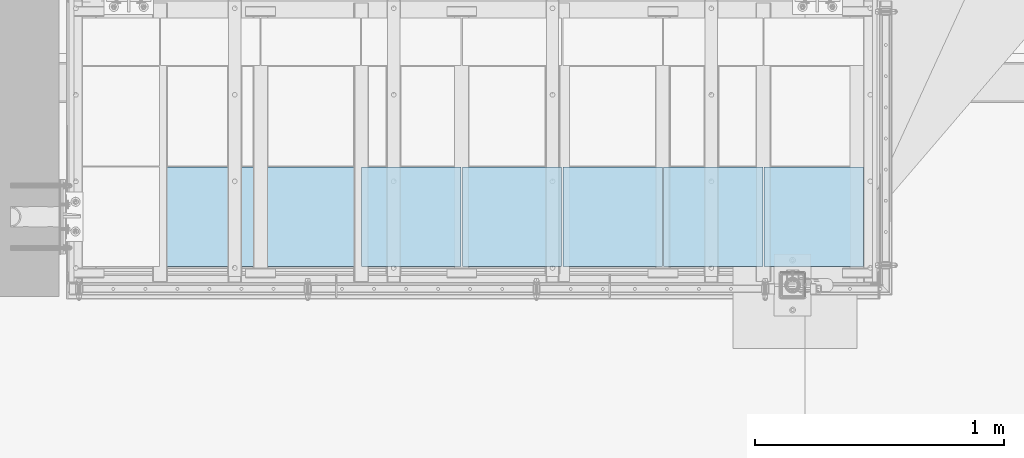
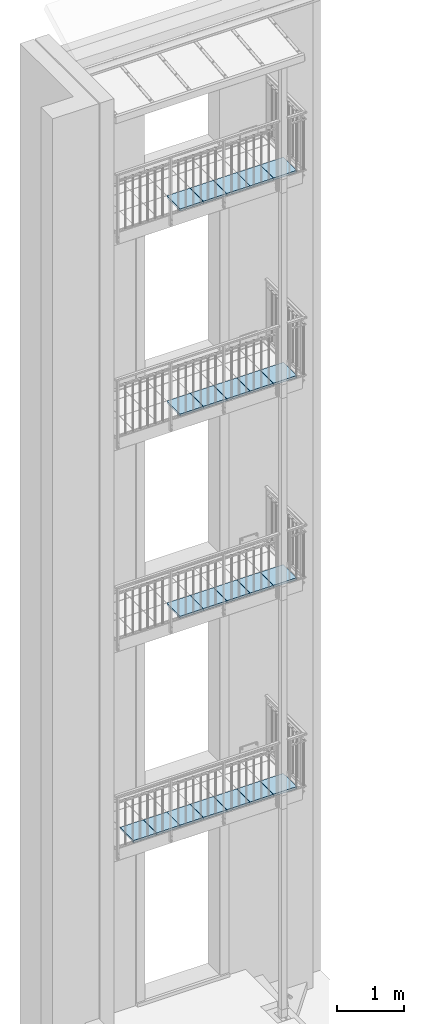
# One storey, part 58 of 162: 22 plates.
"""IFC2X3 building model written with IfcOpenShell, lengths in millimetres."""

from ifc_helpers import new_model, entity, si_unit, converted_unit, frame, origin_with_axes, place, context, project, spatial, polyline, outline, extrude, material, layer, layer_set, element, save


model = new_model("IFC2X3")

# Units and contexts
model_context = context("Model", 3, precision=1e-09, world=origin_with_axes())
ifc_project = project(units=[si_unit("LENGTHUNIT", "METRE", prefix="MILLI"), si_unit("AREAUNIT", "SQUARE_METRE"), si_unit("VOLUMEUNIT", "CUBIC_METRE"), converted_unit("PLANEANGLEUNIT", "DEGREE", entity("IfcPlaneAngleMeasure", 0.01745329), si_unit("PLANEANGLEUNIT", "RADIAN"), dimensions=[0, 0, 0, 0, 0, 0, 0])], contexts=[model_context])

# Site, building, storey
site_placement = place(None, origin_with_axes())
site = spatial("IfcSite", under=ifc_project, at=site_placement, Name="Hermannstra?e 1a, 60318 Frankfurt", CompositionType="ELEMENT")
building_placement = place(site_placement, origin_with_axes())
building = spatial("IfcBuilding", under=site, at=building_placement, Name="Struktur 1", CompositionType="ELEMENT")
storey_placement = place(building_placement, origin_with_axes())
storey = spatial("IfcBuildingStorey", under=building, at=storey_placement, Name="Default Storey", CompositionType="ELEMENT", Elevation=0.0)

# Plates
ifc_material = material(Name="BWS")
ifc_layer = layer(ifc_material, 40.0)
ifc_layer_set = layer_set([ifc_layer], Name="BWS")
for number, where, z_axis, x_axis in (
    (1, (3740.30936482, 2005.609373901, 7774.0), (0.0, 0.0, -1.0), (1.0, 0.0, 0.0)),
    (2, (4953.80936482, 2005.609373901, 7774.0), (0.0, 0.0, -1.0), (1.0, 0.0, 0.0)),
    (3, (5358.30936482, 2005.609373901, 7774.0), (0.0, 0.0, -1.0), (1.0, 0.0, 0.0)),
    (4, (4549.30936482, 2005.609373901, 7774.0), (0.0, 0.0, -1.0), (1.0, 0.0, 0.0)),
    (5, (4144.80936482, 2005.609373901, 7774.0), (0.0, 0.0, -1.0), (1.0, 0.0, 0.0)),
    (6, (4953.80936482, 2005.609373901, 11473.999), (0.0, 0.0, -1.0), (1.0, 0.0, 0.0)),
    (7, (5358.30936482, 2005.609373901, 11473.999), (0.0, 0.0, -1.0), (1.0, 0.0, 0.0)),
    (8, (4549.30936482, 2005.609373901, 11473.999), (0.0, 0.0, -1.0), (1.0, 0.0, 0.0)),
    (9, (4144.80936482, 2005.609373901, 11473.999), (0.0, 0.0, -1.0), (1.0, 0.0, 0.0)),
    (10, (3740.30936482, 2005.609373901, 11473.999), (0.0, 0.0, -1.0), (1.0, 0.0, 0.0)),
    (11, (4953.80936482, 2005.609373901, 15230.999), (0.0, 0.0, -1.0), (1.0, 0.0, 0.0)),
    (12, (5358.30936482, 2005.609373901, 15230.999), (0.0, 0.0, -1.0), (1.0, 0.0, 0.0)),
    (13, (4549.30936482, 2005.609373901, 15230.999), (0.0, 0.0, -1.0), (1.0, 0.0, 0.0)),
    (14, (4144.80936482, 2005.609373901, 15230.999), (0.0, 0.0, -1.0), (1.0, 0.0, 0.0)),
    (15, (3740.30936482, 2005.609373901, 15230.999), (0.0, 0.0, -1.0), (1.0, 0.0, 0.0)),
    (16, (4953.80936482, 2005.609373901, 3949.0), (0.0, 0.0, -1.0), (1.0, 0.0, 0.0)),
    (17, (5358.30936482, 2005.609373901, 3949.0), (0.0, 0.0, -1.0), (1.0, 0.0, 0.0)),
    (18, (4549.30936482, 2005.609373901, 3949.0), (0.0, 0.0, -1.0), (1.0, 0.0, 0.0)),
    (19, (4144.80936482, 2005.609373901, 3949.0), (0.0, 0.0, -1.0), (1.0, 0.0, 0.0)),
    (20, (3740.30936482, 2005.609373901, 3949.0), (0.0, 0.0, -1.0), (1.0, 0.0, 0.0)),
    (21, (3335.80936482, 2005.609373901, 3949.0), (0.0, 0.0, -1.0), (1.0, 0.0, 0.0)),
    (22, (2931.30936482, 2005.609373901, 3949.0), (0.0, 0.0, -1.0), (1.0, 0.0, 0.0)),
):
    element("IfcPlate", number, at=place(None, frame(where, z_axis=z_axis, x_axis=x_axis)), inside=storey, material=ifc_layer_set, Name="-", ObjectType="-", context=model_context, shape_type="SweptSolid", body=[
        extrude(outline(polyline([(0.0, 0.0), (400.0, 0.0), (400.0, 400.0), (0.0, 400.0), (0.0, 0.0)])), origin_with_axes(), (0.0, 0.0, 1.0), 40.0),
    ])

save(model, "model.ifc")
